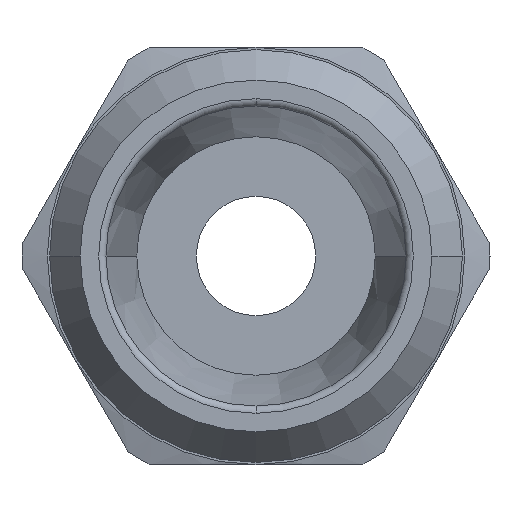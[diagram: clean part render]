
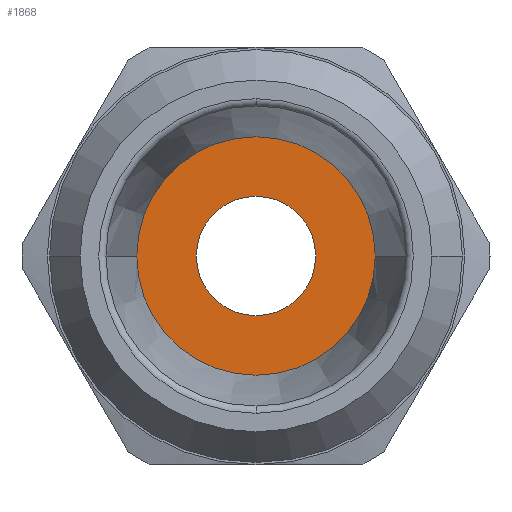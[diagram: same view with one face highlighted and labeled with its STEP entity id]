
A CAD part, left-side view. The second image highlights one B-rep face of the part: STEP entity #1868.
In plain terms, the highlighted planar face has unit normal (-1, 0, 0) as drawn and (0, 0, 1) by its records, which use the part's own axes.
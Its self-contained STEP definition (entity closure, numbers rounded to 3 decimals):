
#767=CARTESIAN_POINT('',(0.,-4.,5.35));
#768=VERTEX_POINT('',#767);
#784=CARTESIAN_POINT('',(0.,4.,5.35));
#785=VERTEX_POINT('',#784);
#792=CARTESIAN_POINT('',(0.,0.,5.35));
#793=DIRECTION('',(0.0,0.0,-1.0));
#794=DIRECTION('',(0.0,-1.0,0.0));
#795=AXIS2_PLACEMENT_3D('',#792,#793,#794);
#796=CIRCLE('',#795,4.0);
#797=EDGE_CURVE('',#785,#768,#796,.T.);
#1256=CARTESIAN_POINT('',(0.,2.,5.35));
#1257=VERTEX_POINT('',#1256);
#1266=CARTESIAN_POINT('',(0.,-2.,5.35));
#1267=VERTEX_POINT('',#1266);
#1268=CARTESIAN_POINT('',(0.,0.,5.35));
#1269=DIRECTION('',(0.0,0.0,-1.0));
#1270=DIRECTION('',(0.0,1.0,0.0));
#1271=AXIS2_PLACEMENT_3D('',#1268,#1269,#1270);
#1272=CIRCLE('',#1271,2.0);
#1273=EDGE_CURVE('',#1267,#1257,#1272,.T.);
#1555=CARTESIAN_POINT('',(0.,0.,5.35));
#1556=DIRECTION('',(0.0,0.0,-1.0));
#1557=DIRECTION('',(0.0,1.0,0.0));
#1558=AXIS2_PLACEMENT_3D('',#1555,#1556,#1557);
#1559=CIRCLE('',#1558,2.0);
#1560=EDGE_CURVE('',#1257,#1267,#1559,.T.);
#1849=CARTESIAN_POINT('',(0.,-2.,5.35));
#1850=DIRECTION('',(0.0,0.0,1.0));
#1851=DIRECTION('',(-1.0,0.0,0.0));
#1852=AXIS2_PLACEMENT_3D('',#1849,#1850,#1851);
#1853=PLANE('',#1852);
#1854=CARTESIAN_POINT('',(0.,0.,5.35));
#1855=DIRECTION('',(0.0,0.0,-1.0));
#1856=DIRECTION('',(0.0,-1.0,0.0));
#1857=AXIS2_PLACEMENT_3D('',#1854,#1855,#1856);
#1858=CIRCLE('',#1857,4.0);
#1859=EDGE_CURVE('',#768,#785,#1858,.T.);
#1860=ORIENTED_EDGE('',*,*,#1859,.F.);
#1861=ORIENTED_EDGE('',*,*,#797,.F.);
#1862=EDGE_LOOP('',(#1860,#1861));
#1863=FACE_OUTER_BOUND('',#1862,.T.);
#1864=ORIENTED_EDGE('',*,*,#1273,.T.);
#1865=ORIENTED_EDGE('',*,*,#1560,.T.);
#1866=EDGE_LOOP('',(#1864,#1865));
#1867=FACE_BOUND('',#1866,.T.);
#1868=ADVANCED_FACE('',(#1863,#1867),#1853,.T.);
